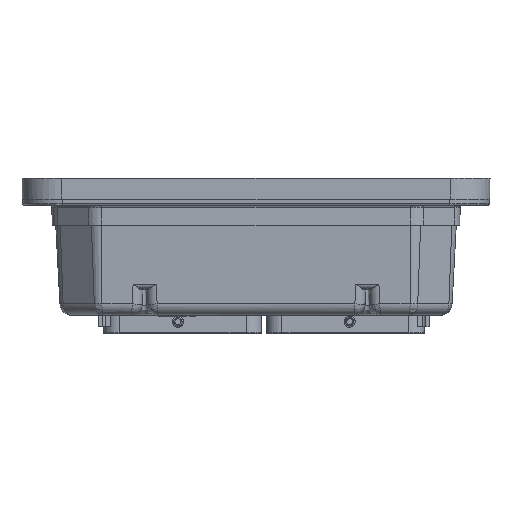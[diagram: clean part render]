
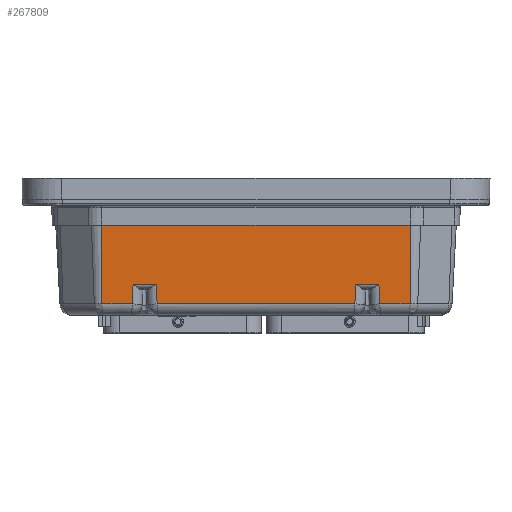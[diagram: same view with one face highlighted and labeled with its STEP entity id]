
A CAD part, left-side view. The second image highlights one B-rep face of the part: STEP entity #267809.
In plain terms, the highlighted planar face has unit normal (-0.999, 0, -0.052).
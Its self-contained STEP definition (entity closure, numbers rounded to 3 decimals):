
#890 = VERTEX_POINT ( 'NONE', #271507 ) ;
#3007 = ORIENTED_EDGE ( 'NONE', *, *, #71639, .T. ) ;
#4292 = VERTEX_POINT ( 'NONE', #238016 ) ;
#8206 = LINE ( 'NONE', #42187, #129676 ) ;
#11540 = EDGE_CURVE ( 'NONE', #4292, #154686, #38904, .T. ) ;
#11758 = ORIENTED_EDGE ( 'NONE', *, *, #11540, .T. ) ;
#12896 = DIRECTION ( 'NONE',  ( -0.052, -0.052, 0.997 ) ) ;
#13475 = EDGE_LOOP ( 'NONE', ( #53381, #230495, #264363, #81121, #154496, #172764, #169489, #11758, #128012, #3007, #188757, #119175 ) ) ;
#14512 = CARTESIAN_POINT ( 'NONE',  ( -3.204, -1.427, -1.146 ) ) ;
#16263 = CARTESIAN_POINT ( 'NONE',  ( -1032.85, -2.293, 19645.669 ) ) ;
#19103 = EDGE_CURVE ( 'NONE', #115836, #266352, #105376, .T. ) ;
#19307 = CARTESIAN_POINT ( 'NONE',  ( -3.204, -1.427, -1.146 ) ) ;
#19768 = CARTESIAN_POINT ( 'NONE',  ( -3.204, 2.545, -1.146 ) ) ;
#21080 = CARTESIAN_POINT ( 'NONE',  ( -3.22, -1.443, -0.834 ) ) ;
#23616 = CARTESIAN_POINT ( 'NONE',  ( -3.22, -1.805, -0.834 ) ) ;
#28490 = CARTESIAN_POINT ( 'NONE',  ( -3.269, 2.545, 0.089 ) ) ;
#31269 = EDGE_CURVE ( 'NONE', #139497, #283401, #283108, .T. ) ;
#35993 = CARTESIAN_POINT ( 'NONE',  ( -3.204, 2.073, -1.146 ) ) ;
#38904 = LINE ( 'NONE', #122721, #288833 ) ;
#42187 = CARTESIAN_POINT ( 'NONE',  ( -3.204, 2.073, -1.146 ) ) ;
#53142 = LINE ( 'NONE', #16263, #174444 ) ;
#53381 = ORIENTED_EDGE ( 'NONE', *, *, #66325, .T. ) ;
#54654 = CARTESIAN_POINT ( 'NONE',  ( -3.283, 2.545, 0.361 ) ) ;
#66325 = EDGE_CURVE ( 'NONE', #890, #69370, #246861, .T. ) ;
#66711 = LINE ( 'NONE', #19768, #188001 ) ;
#69370 = VERTEX_POINT ( 'NONE', #216478 ) ;
#71470 = DIRECTION ( 'NONE',  ( 0.052, 0., -0.999 ) ) ;
#71639 = EDGE_CURVE ( 'NONE', #232045, #115836, #66711, .T. ) ;
#72133 = VECTOR ( 'NONE', #206131, 39.37 ) ;
#76699 = PLANE ( 'NONE',  #215774 ) ;
#77657 = DIRECTION ( 'NONE',  ( -0.052, 0., 0.999 ) ) ;
#81121 = ORIENTED_EDGE ( 'NONE', *, *, #31269, .F. ) ;
#82060 = EDGE_CURVE ( 'NONE', #139497, #129792, #199101, .T. ) ;
#84234 = VERTEX_POINT ( 'NONE', #219413 ) ;
#85836 = DIRECTION ( 'NONE',  ( 0., -1., 0. ) ) ;
#86886 = CARTESIAN_POINT ( 'NONE',  ( -3.204, 2.545, -1.146 ) ) ;
#90711 = VECTOR ( 'NONE', #285983, 39.37 ) ;
#93190 = LINE ( 'NONE', #86886, #214416 ) ;
#105376 = LINE ( 'NONE', #14512, #287357 ) ;
#115836 = VERTEX_POINT ( 'NONE', #19307 ) ;
#117891 = EDGE_CURVE ( 'NONE', #154686, #232045, #277583, .T. ) ;
#119175 = ORIENTED_EDGE ( 'NONE', *, *, #281186, .T. ) ;
#122482 = DIRECTION ( 'NONE',  ( 0., -1., 0. ) ) ;
#122721 = CARTESIAN_POINT ( 'NONE',  ( -3.22, 2.545, -0.834 ) ) ;
#128012 = ORIENTED_EDGE ( 'NONE', *, *, #117891, .T. ) ;
#129676 = VECTOR ( 'NONE', #178801, 39.37 ) ;
#129792 = VERTEX_POINT ( 'NONE', #225015 ) ;
#130652 = CARTESIAN_POINT ( 'NONE',  ( -3.269, -2.293, 0.089 ) ) ;
#132450 = CARTESIAN_POINT ( 'NONE',  ( -3.204, 1.679, -1.146 ) ) ;
#137629 = EDGE_CURVE ( 'NONE', #158574, #4292, #8206, .T. ) ;
#138453 = VECTOR ( 'NONE', #71470, 39.37 ) ;
#139497 = VERTEX_POINT ( 'NONE', #28490 ) ;
#142595 = CARTESIAN_POINT ( 'NONE',  ( -3.269, -2.293, 0.089 ) ) ;
#144284 = EDGE_CURVE ( 'NONE', #69370, #84234, #177064, .T. ) ;
#154496 = ORIENTED_EDGE ( 'NONE', *, *, #82060, .T. ) ;
#154686 = VERTEX_POINT ( 'NONE', #247759 ) ;
#156263 = VECTOR ( 'NONE', #256585, 39.37 ) ;
#158574 = VERTEX_POINT ( 'NONE', #35993 ) ;
#164886 = CARTESIAN_POINT ( 'NONE',  ( -3.22, 1.695, -0.834 ) ) ;
#169489 = ORIENTED_EDGE ( 'NONE', *, *, #137629, .T. ) ;
#172764 = ORIENTED_EDGE ( 'NONE', *, *, #184314, .T. ) ;
#174444 = VECTOR ( 'NONE', #175904, 39.37 ) ;
#175904 = DIRECTION ( 'NONE',  ( 0.052, 0., -0.999 ) ) ;
#177064 = LINE ( 'NONE', #203983, #291343 ) ;
#178801 = DIRECTION ( 'NONE',  ( -0.052, -0.052, 0.997 ) ) ;
#184091 = CARTESIAN_POINT ( 'NONE',  ( -3.283, 2.545, 0.361 ) ) ;
#184314 = EDGE_CURVE ( 'NONE', #129792, #158574, #93190, .T. ) ;
#188001 = VECTOR ( 'NONE', #245198, 39.37 ) ;
#188757 = ORIENTED_EDGE ( 'NONE', *, *, #19103, .T. ) ;
#199101 = LINE ( 'NONE', #184091, #138453 ) ;
#203983 = CARTESIAN_POINT ( 'NONE',  ( -3.204, 2.545, -1.146 ) ) ;
#206131 = DIRECTION ( 'NONE',  ( 0.052, -0.052, -0.997 ) ) ;
#214198 = DIRECTION ( 'NONE',  ( -0.999, 0., -0.052 ) ) ;
#214416 = VECTOR ( 'NONE', #292274, 39.37 ) ;
#215774 = AXIS2_PLACEMENT_3D ( 'NONE', #54654, #214198, #77657 ) ;
#216478 = CARTESIAN_POINT ( 'NONE',  ( -3.204, -1.821, -1.146 ) ) ;
#216763 = FACE_OUTER_BOUND ( 'NONE', #13475, .T. ) ;
#219413 = CARTESIAN_POINT ( 'NONE',  ( -3.204, -2.293, -1.146 ) ) ;
#222376 = VECTOR ( 'NONE', #85836, 39.37 ) ;
#225015 = CARTESIAN_POINT ( 'NONE',  ( -3.204, 2.545, -1.146 ) ) ;
#226934 = DIRECTION ( 'NONE',  ( 0., -1., 0. ) ) ;
#230495 = ORIENTED_EDGE ( 'NONE', *, *, #144284, .T. ) ;
#232045 = VERTEX_POINT ( 'NONE', #132450 ) ;
#238016 = CARTESIAN_POINT ( 'NONE',  ( -3.22, 2.057, -0.834 ) ) ;
#245198 = DIRECTION ( 'NONE',  ( 0., -1., 0. ) ) ;
#246861 = LINE ( 'NONE', #23616, #72133 ) ;
#247759 = CARTESIAN_POINT ( 'NONE',  ( -3.22, 1.695, -0.834 ) ) ;
#256585 = DIRECTION ( 'NONE',  ( 0.052, -0.052, -0.997 ) ) ;
#262998 = CARTESIAN_POINT ( 'NONE',  ( -3.22, 2.545, -0.834 ) ) ;
#264230 = EDGE_CURVE ( 'NONE', #283401, #84234, #53142, .T. ) ;
#264363 = ORIENTED_EDGE ( 'NONE', *, *, #264230, .F. ) ;
#266352 = VERTEX_POINT ( 'NONE', #21080 ) ;
#267809 = ADVANCED_FACE ( 'NONE', ( #216763 ), #76699, .T. ) ;
#271507 = CARTESIAN_POINT ( 'NONE',  ( -3.22, -1.805, -0.834 ) ) ;
#272631 = LINE ( 'NONE', #262998, #90711 ) ;
#277583 = LINE ( 'NONE', #164886, #156263 ) ;
#281186 = EDGE_CURVE ( 'NONE', #266352, #890, #272631, .T. ) ;
#283108 = LINE ( 'NONE', #130652, #222376 ) ;
#283401 = VERTEX_POINT ( 'NONE', #142595 ) ;
#285983 = DIRECTION ( 'NONE',  ( 0., -1., 0. ) ) ;
#287357 = VECTOR ( 'NONE', #12896, 39.37 ) ;
#288833 = VECTOR ( 'NONE', #122482, 39.37 ) ;
#291343 = VECTOR ( 'NONE', #226934, 39.37 ) ;
#292274 = DIRECTION ( 'NONE',  ( 0., -1., 0. ) ) ;
